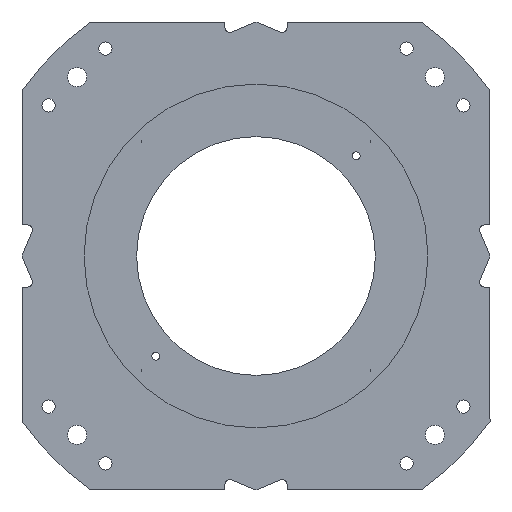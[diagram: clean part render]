
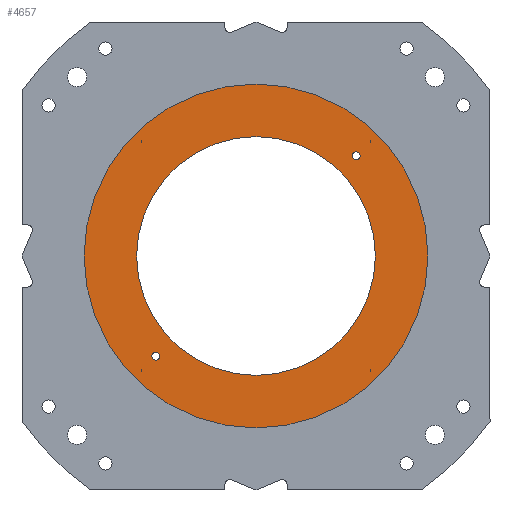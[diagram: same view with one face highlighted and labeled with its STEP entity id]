
A CAD part, front view. The second image highlights one B-rep face of the part: STEP entity #4657.
In plain terms, the highlighted planar face has unit normal (0, -1, 0).
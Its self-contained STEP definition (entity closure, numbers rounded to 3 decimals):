
#52 = DIRECTION ( 'NONE',  ( 0., 1., 0. ) ) ;
#71 = DIRECTION ( 'NONE',  ( 0., 0., -1. ) ) ;
#181 = VERTEX_POINT ( 'NONE', #6687 ) ;
#196 = AXIS2_PLACEMENT_3D ( 'NONE', #1894, #6784, #6075 ) ;
#216 = AXIS2_PLACEMENT_3D ( 'NONE', #5269, #8579, #71 ) ;
#258 = VERTEX_POINT ( 'NONE', #5889 ) ;
#267 = EDGE_CURVE ( 'NONE', #5279, #4343, #6411, .T. ) ;
#376 = DIRECTION ( 'NONE',  ( 0., 0., -1. ) ) ;
#448 = ORIENTED_EDGE ( 'NONE', *, *, #5124, .F. ) ;
#462 = EDGE_LOOP ( 'NONE', ( #2430, #6179 ) ) ;
#896 = CARTESIAN_POINT ( 'NONE',  ( -105., 463., -109. ) ) ;
#1060 = CIRCLE ( 'NONE', #2271, 180. ) ;
#1125 = CARTESIAN_POINT ( 'NONE',  ( 0., 463., 180. ) ) ;
#1266 = EDGE_CURVE ( 'NONE', #6388, #181, #4442, .T. ) ;
#1469 = EDGE_CURVE ( 'NONE', #3782, #3854, #7931, .T. ) ;
#1547 = DIRECTION ( 'NONE',  ( 0., -1., 0. ) ) ;
#1549 = FACE_BOUND ( 'NONE', #8978, .T. ) ;
#1637 = ORIENTED_EDGE ( 'NONE', *, *, #8623, .F. ) ;
#1734 = ORIENTED_EDGE ( 'NONE', *, *, #8981, .F. ) ;
#1778 = CARTESIAN_POINT ( 'NONE',  ( 105., 463., 101. ) ) ;
#1826 = CIRCLE ( 'NONE', #4696, 125. ) ;
#1832 = EDGE_CURVE ( 'NONE', #181, #6388, #1060, .T. ) ;
#1894 = CARTESIAN_POINT ( 'NONE',  ( 0., 463., 0. ) ) ;
#2183 = DIRECTION ( 'NONE',  ( 0., -1., 0. ) ) ;
#2271 = AXIS2_PLACEMENT_3D ( 'NONE', #6710, #52, #2860 ) ;
#2430 = ORIENTED_EDGE ( 'NONE', *, *, #1266, .F. ) ;
#2535 = CIRCLE ( 'NONE', #6024, 4. ) ;
#2641 = ORIENTED_EDGE ( 'NONE', *, *, #4211, .F. ) ;
#2797 = CIRCLE ( 'NONE', #6752, 125. ) ;
#2860 = DIRECTION ( 'NONE',  ( 0., 0., 1. ) ) ;
#3008 = CARTESIAN_POINT ( 'NONE',  ( 105., 463., 105. ) ) ;
#3072 = DIRECTION ( 'NONE',  ( 0., 0., -1. ) ) ;
#3264 = CIRCLE ( 'NONE', #6150, 4. ) ;
#3368 = CARTESIAN_POINT ( 'NONE',  ( 105., 463., 105. ) ) ;
#3625 = CARTESIAN_POINT ( 'NONE',  ( 0., 463., 0. ) ) ;
#3757 = CARTESIAN_POINT ( 'NONE',  ( 105., 463., 109. ) ) ;
#3777 = EDGE_LOOP ( 'NONE', ( #1637, #6134 ) ) ;
#3782 = VERTEX_POINT ( 'NONE', #1778 ) ;
#3835 = AXIS2_PLACEMENT_3D ( 'NONE', #3008, #1547, #6573 ) ;
#3854 = VERTEX_POINT ( 'NONE', #3757 ) ;
#4151 = AXIS2_PLACEMENT_3D ( 'NONE', #4517, #8764, #3072 ) ;
#4211 = EDGE_CURVE ( 'NONE', #258, #6939, #2797, .T. ) ;
#4343 = VERTEX_POINT ( 'NONE', #7987 ) ;
#4442 = CIRCLE ( 'NONE', #196, 180. ) ;
#4517 = CARTESIAN_POINT ( 'NONE',  ( -105., 463., -105. ) ) ;
#4657 = ADVANCED_FACE ( 'NONE', ( #5109, #6725, #1549, #6674 ), #9297, .T. ) ;
#4696 = AXIS2_PLACEMENT_3D ( 'NONE', #7415, #2183, #7262 ) ;
#4812 = DIRECTION ( 'NONE',  ( 0., -1., 0. ) ) ;
#5109 = FACE_BOUND ( 'NONE', #3777, .T. ) ;
#5124 = EDGE_CURVE ( 'NONE', #3854, #3782, #2535, .T. ) ;
#5269 = CARTESIAN_POINT ( 'NONE',  ( 0., 463., 0. ) ) ;
#5279 = VERTEX_POINT ( 'NONE', #896 ) ;
#5476 = CARTESIAN_POINT ( 'NONE',  ( -105., 463., -105. ) ) ;
#5889 = CARTESIAN_POINT ( 'NONE',  ( 0., 463., -125. ) ) ;
#6024 = AXIS2_PLACEMENT_3D ( 'NONE', #3368, #4812, #7700 ) ;
#6027 = ORIENTED_EDGE ( 'NONE', *, *, #1469, .F. ) ;
#6075 = DIRECTION ( 'NONE',  ( 0., 0., 1. ) ) ;
#6134 = ORIENTED_EDGE ( 'NONE', *, *, #267, .F. ) ;
#6150 = AXIS2_PLACEMENT_3D ( 'NONE', #5476, #9061, #376 ) ;
#6179 = ORIENTED_EDGE ( 'NONE', *, *, #1832, .F. ) ;
#6363 = CARTESIAN_POINT ( 'NONE',  ( 0., 463., 125. ) ) ;
#6388 = VERTEX_POINT ( 'NONE', #1125 ) ;
#6411 = CIRCLE ( 'NONE', #4151, 4. ) ;
#6573 = DIRECTION ( 'NONE',  ( 0., 0., -1. ) ) ;
#6674 = FACE_OUTER_BOUND ( 'NONE', #462, .T. ) ;
#6687 = CARTESIAN_POINT ( 'NONE',  ( 0., 463., -180. ) ) ;
#6710 = CARTESIAN_POINT ( 'NONE',  ( 0., 463., 0. ) ) ;
#6725 = FACE_BOUND ( 'NONE', #8884, .T. ) ;
#6752 = AXIS2_PLACEMENT_3D ( 'NONE', #3625, #8694, #7866 ) ;
#6784 = DIRECTION ( 'NONE',  ( 0., 1., 0. ) ) ;
#6939 = VERTEX_POINT ( 'NONE', #6363 ) ;
#7262 = DIRECTION ( 'NONE',  ( 0., 0., -1. ) ) ;
#7415 = CARTESIAN_POINT ( 'NONE',  ( 0., 463., 0. ) ) ;
#7700 = DIRECTION ( 'NONE',  ( 0., 0., -1. ) ) ;
#7866 = DIRECTION ( 'NONE',  ( 0., 0., -1. ) ) ;
#7931 = CIRCLE ( 'NONE', #3835, 4. ) ;
#7987 = CARTESIAN_POINT ( 'NONE',  ( -105., 463., -101. ) ) ;
#8579 = DIRECTION ( 'NONE',  ( 0., -1., 0. ) ) ;
#8623 = EDGE_CURVE ( 'NONE', #4343, #5279, #3264, .T. ) ;
#8694 = DIRECTION ( 'NONE',  ( 0., -1., 0. ) ) ;
#8764 = DIRECTION ( 'NONE',  ( 0., -1., 0. ) ) ;
#8884 = EDGE_LOOP ( 'NONE', ( #448, #6027 ) ) ;
#8978 = EDGE_LOOP ( 'NONE', ( #1734, #2641 ) ) ;
#8981 = EDGE_CURVE ( 'NONE', #6939, #258, #1826, .T. ) ;
#9061 = DIRECTION ( 'NONE',  ( 0., -1., 0. ) ) ;
#9297 = PLANE ( 'NONE',  #216 ) ;
